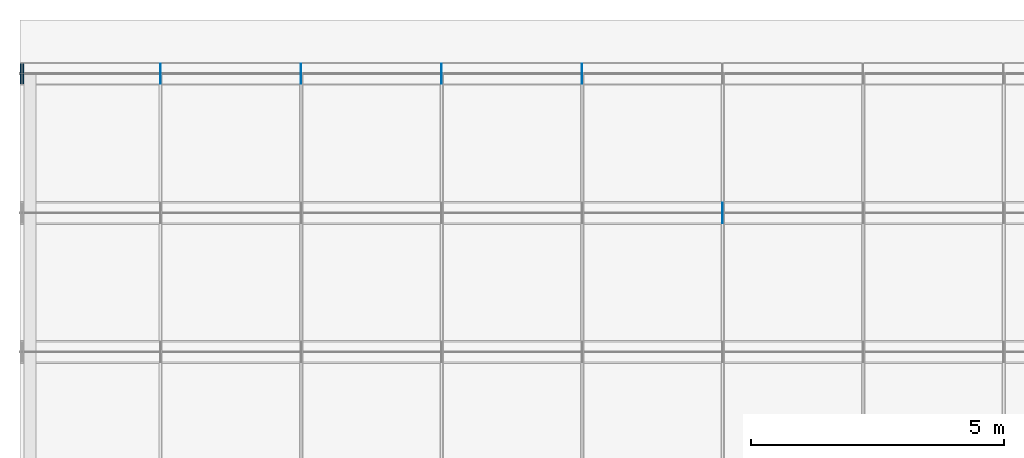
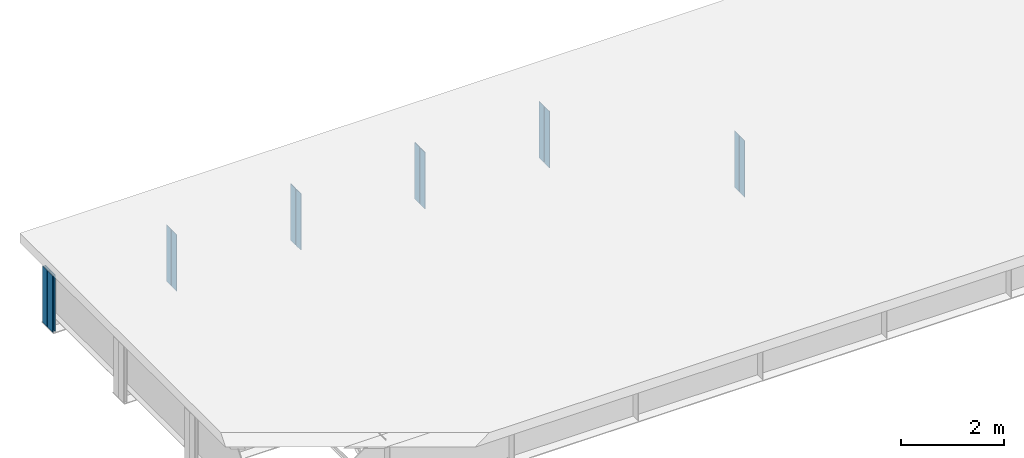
# One storey, part 8 of 10: 14 plates.
"""IFC4 building model written with IfcOpenShell, lengths in metres."""

from ifc_helpers import new_model, si_unit, frame, origin, origin_with_axes, origin_2d_with_axis, place, context, subcontext, project, spatial, rectangle, extrude, element, save


model = new_model("IFC4")

# Units and contexts
model_context = context("Model", 3, precision=1e-05, world=origin())
body_context = subcontext(model_context, "Body", "Model", "MODEL_VIEW")
ifc_project = project(units=[si_unit("LENGTHUNIT", "METRE"), si_unit("AREAUNIT", "SQUARE_METRE"), si_unit("VOLUMEUNIT", "CUBIC_METRE"), si_unit("PLANEANGLEUNIT", "RADIAN")], contexts=[model_context])

# Site, building, storey
site_placement = place(None, origin_with_axes())
site = spatial("IfcSite", under=ifc_project, at=site_placement, Name="Default Site")
building_placement = place(site_placement, origin_with_axes())
building = spatial("IfcBuilding", under=site, at=building_placement, Name="Bridge Structure")
storey_placement = place(building_placement, origin_with_axes())
storey = spatial("IfcBuildingStorey", under=building, at=storey_placement, Name="Superstructure")

# Plates
for number, where, z_axis, x_axis, name in (
    (1, (13.885, 1.479, -0.6675), (0.0, 0.0, 1.0), (1.0, 0.0, 0.0), "Intermediate Stiffener 3"),
    (2, (13.885, 1.2710000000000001, -0.6675), (0.0, 0.0, 1.0), (1.0, 0.0, 0.0), "Intermediate Stiffener 3"),
    (3, (2.777, 4.229, -0.6675), (0.0, 0.0, 1.0), (1.0, 0.0, 0.0), "Intermediate Stiffener 4"),
    (4, (2.777, 4.021, -0.6675), (0.0, 0.0, 1.0), (1.0, 0.0, 0.0), "Intermediate Stiffener 4"),
    (5, (5.554, 4.229, -0.6675), (0.0, 0.0, 1.0), (1.0, 0.0, 0.0), "Intermediate Stiffener 4"),
    (6, (5.554, 4.021, -0.6675), (0.0, 0.0, 1.0), (1.0, 0.0, 0.0), "Intermediate Stiffener 4"),
    (7, (8.331, 4.229, -0.6675), (0.0, 0.0, 1.0), (1.0, 0.0, 0.0), "Intermediate Stiffener 4"),
    (8, (8.331, 4.021, -0.6675), (0.0, 0.0, 1.0), (1.0, 0.0, 0.0), "Intermediate Stiffener 4"),
    (9, (11.108, 4.229, -0.6675), (0.0, 0.0, 1.0), (1.0, 0.0, 0.0), "Intermediate Stiffener 4"),
    (10, (11.108, 4.021, -0.6675), (0.0, 0.0, 1.0), (1.0, 0.0, 0.0), "Intermediate Stiffener 4"),
):
    element("IfcPlate", number, at=place(storey_placement, frame(where, z_axis=z_axis, x_axis=x_axis)), inside=storey, Name=name, context=body_context, shape_type="SweptSolid", body=[
        extrude(rectangle(XDim=0.012, YDim=0.192, at=origin_2d_with_axis()), origin_with_axes(), (0.0, 0.0, 1.0), 1.335),
    ])
for number, where, z_axis, x_axis, name in (
    (11, (0.01, 4.229, -0.6675), (0.0, 0.0, 1.0), (1.0, 0.0, 0.0), "End Stiffener 4"),
    (12, (0.01, 4.021, -0.6675), (0.0, 0.0, 1.0), (1.0, 0.0, 0.0), "End Stiffener 4"),
    (13, (0.06, 4.229, -0.6675), (0.0, 0.0, 1.0), (1.0, 0.0, 0.0), "End Stiffener 4"),
    (14, (0.06, 4.021, -0.6675), (0.0, 0.0, 1.0), (1.0, 0.0, 0.0), "End Stiffener 4"),
):
    element("IfcPlate", number, at=place(storey_placement, frame(where, z_axis=z_axis, x_axis=x_axis)), inside=storey, Name=name, context=body_context, shape_type="SweptSolid", body=[
        extrude(rectangle(XDim=0.02, YDim=0.192, at=origin_2d_with_axis()), origin_with_axes(), (0.0, 0.0, 1.0), 1.335),
    ])

save(model, "model.ifc")
